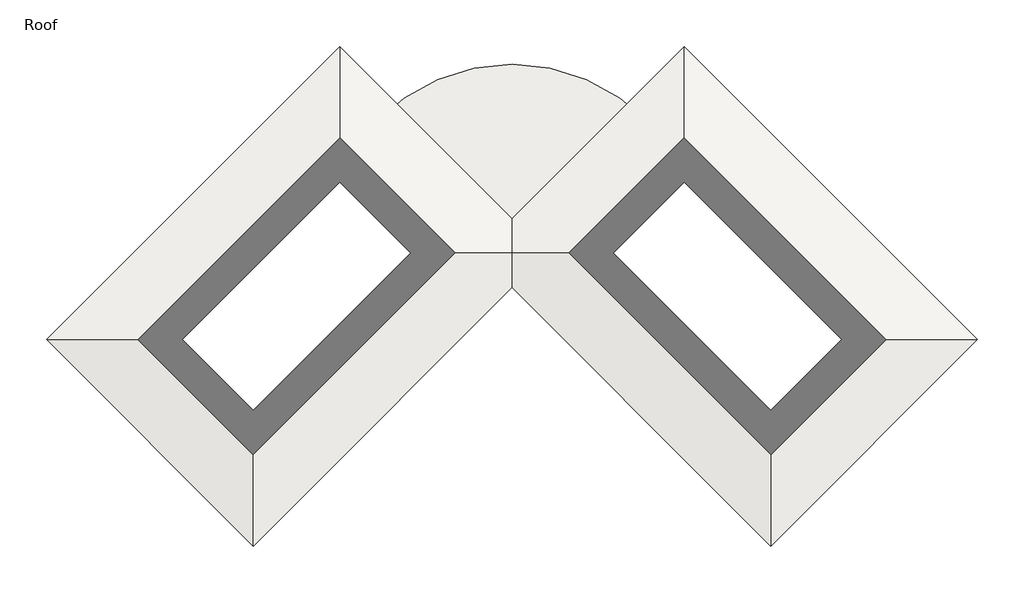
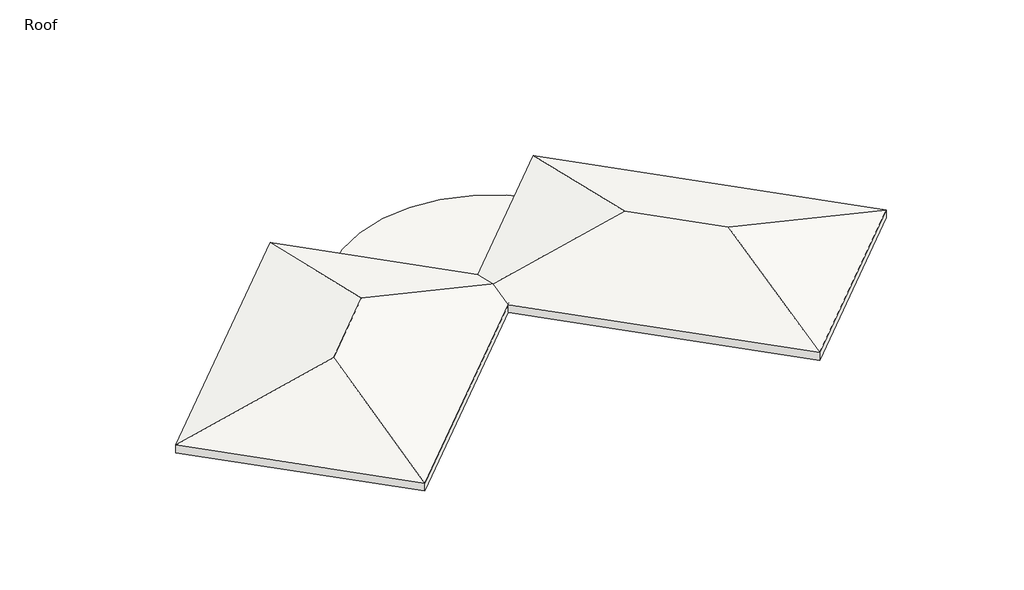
# One storey: 3 roofs.
"""IFC4 building model written with IfcOpenShell, lengths in millimetres."""

from ifc_helpers import new_model, si_unit, point, frame, frame_2d, origin, place, context, project, spatial, polyline, circle_curve, trimmed, segment, composite_curve, outline, extrude, faceted_brep, element, save

model = new_model("IFC4")

# Units and contexts
model_context = context("Model", 3, world=origin())
ifc_project = project(units=[si_unit("LENGTHUNIT", "METRE", prefix="MILLI")], contexts=[model_context])

# Site, building, storey
site = spatial("IfcSite", under=ifc_project)
building = spatial("IfcBuilding", under=site)
storey = spatial("IfcBuildingStorey", under=building, Name="Roof", Elevation=4571.7250795)

# Roofs
placement = place(None, origin())
element("IfcRoof", 1, ObjectType="Steel Bar Joist - Steel Deck - EPDM Membrane", at=placement, inside=storey, context=model_context, shape_type="Brep", body=[
    faceted_brep([(-10222.2915721, 1994.6523161, 6603.1400615), (-10222.2915721, 12341.0387384, 4165.1754932), (124.0948502, 1994.6523161, 4165.1754932), (-24879.2009326, -2315.870622, 4165.1754932), (-14532.8145102, -2315.870622, 6603.1400615), (-14532.8145102, -12662.2570444, 4165.1754932), (-10222.2915721, 12341.0387384, 4697.4769091), (-10222.2915721, 1994.6523161, 7135.4414774), (124.0948502, 1994.6523161, 4697.4769091), (-24879.2009326, -2315.870622, 4697.4769091), (-14532.8145102, -12662.2570444, 4697.4769091), (-14532.8145102, -2315.870622, 7135.4414774)], [[[0, 1, 2]], [[3, 4, 5]], [[1, 0, 4, 3]], [[5, 4, 0, 2]], [[6, 7, 8]], [[9, 10, 11]], [[6, 9, 11, 7]], [[10, 8, 7, 11]], [[3, 9, 6, 1]], [[5, 10, 9, 3]], [[2, 8, 10, 5]], [[1, 6, 8, 2]]]),
])
element("IfcRoof", 2, ObjectType="Steel Bar Joist - Steel Deck - EPDM Membrane", at=placement, inside=storey, context=model_context, shape_type="SweptSolid", body=[
    extrude(outline(composite_curve([segment(trimmed(circle_curve(frame_2d((-1601.2456959, 1994.6523161)), 9450.0), [point((-8427.0017491, 8530.0600541))], [point((5225.8928338, 8528.6158526))], False, "CARTESIAN"), True, "CONTINUOUS"), segment(polyline([(5225.8928338, 8528.6158526), (-1746.4198535, 1849.4781585), (-8427.0017491, 8530.0600541)]), True, "CONTINUOUS")], self_intersect=False)), frame((0.0, 0.0, 4164.7250795), z_axis=(0.0, 0.0, 1.0), x_axis=(1.0, 0.0, 0.0)), (0.0, 0.0, 1.0), 505.0),
])
element("IfcRoof", 3, ObjectType="Steel Bar Joist - Steel Deck - EPDM Membrane", at=placement, inside=storey, context=model_context, shape_type="Brep", body=[
    faceted_brep([(7019.8001803, 12341.0387384, 4165.1754932), (7019.8001803, 1994.6523161, 6603.1400615), (-3326.586242, 1994.6523161, 4165.1754932), (11330.3231184, -12662.2570444, 4165.1754932), (11330.3231184, -2315.870622, 6603.1400615), (21676.7095408, -2315.870622, 4165.1754932), (7019.8001803, 12341.0387384, 4697.4769091), (-3326.586242, 1994.6523161, 4697.4769091), (7019.8001803, 1994.6523161, 7135.4414774), (11330.3231184, -12662.2570444, 4697.4769091), (21676.7095408, -2315.870622, 4697.4769091), (11330.3231184, -2315.870622, 7135.4414774)], [[[0, 1, 2]], [[3, 4, 5]], [[1, 0, 5, 4]], [[2, 1, 4, 3]], [[6, 7, 8]], [[9, 10, 11]], [[6, 8, 11, 10]], [[7, 9, 11, 8]], [[0, 6, 10, 5]], [[5, 10, 9, 3]], [[3, 9, 7, 2]], [[2, 7, 6, 0]]]),
])

save(model, "model.ifc")
